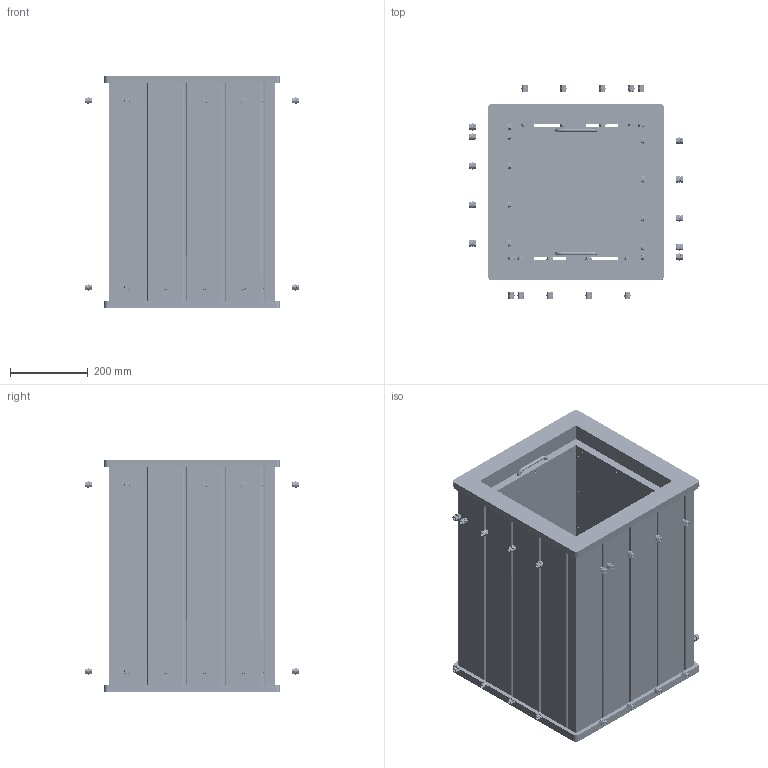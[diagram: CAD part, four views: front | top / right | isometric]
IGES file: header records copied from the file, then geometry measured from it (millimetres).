
Global section: file name: 04ガベージボックスGB01(内箱あり),35HAutoCAD 2024 - 日本語 (; native system: Japanese); preprocessor: Autodesk Translation Framework DWG producer (atf_dwg_producer); organization: unknown; date: 20250115.151621; units: millimetre
Bounding box: 553.24 x 553.21 x 600 mm (x, y, z)
Volume: 32828741.6 mm3; surface area: 9682588.8 mm2
Topology: 665 solids, 665 shells, 8097 faces, 19155 edges, 12557 vertices
Faces by surface type: bspline 8025, revolution 72
